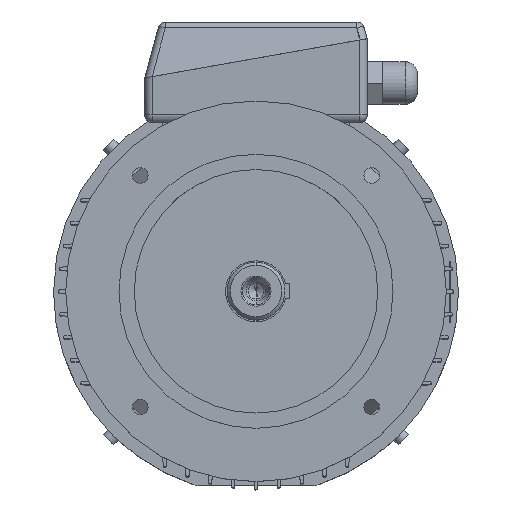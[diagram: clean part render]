
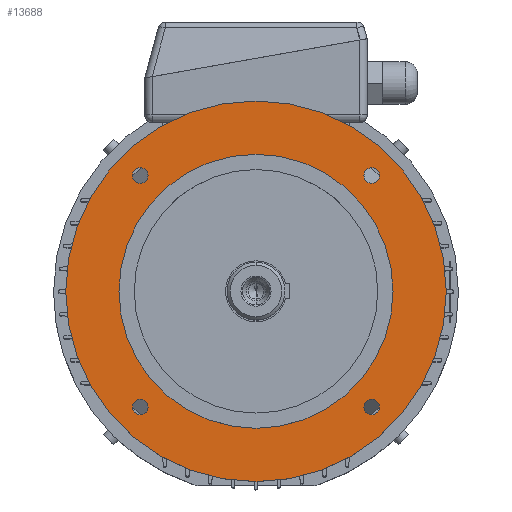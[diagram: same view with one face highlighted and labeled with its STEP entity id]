
A CAD part, top view. The second image highlights one B-rep face of the part: STEP entity #13688.
In plain terms, the highlighted planar face has unit normal (0, 0, 1).
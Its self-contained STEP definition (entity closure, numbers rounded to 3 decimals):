
#16537 = EDGE_LOOP ( 'NONE', ( #15918, #7259 ) ) ;
#436 = EDGE_CURVE ( 'NONE', #17414, #18728, #13785, .T. ) ;
#16823 = ORIENTED_EDGE ( 'NONE', *, *, #3501, .F. ) ;
#16941 = CARTESIAN_POINT ( 'NONE',  ( -81.114, -76.014, 58. ) ) ;
#885 = ORIENTED_EDGE ( 'NONE', *, *, #436, .F. ) ;
#17414 = VERTEX_POINT ( 'NONE', #10523 ) ;
#17438 = EDGE_CURVE ( 'NONE', #3233, #4557, #10531, .T. ) ;
#17683 = EDGE_CURVE ( 'NONE', #18728, #17414, #10718, .T. ) ;
#1490 = EDGE_LOOP ( 'NONE', ( #885, #18963 ) ) ;
#17885 = ORIENTED_EDGE ( 'NONE', *, *, #17438, .F. ) ;
#1780 = ORIENTED_EDGE ( 'NONE', *, *, #13128, .F. ) ;
#1869 = CARTESIAN_POINT ( 'NONE',  ( -70.914, 76.014, 58. ) ) ;
#1986 = CIRCLE ( 'NONE', #1987, 5.1 ) ;
#1987 = AXIS2_PLACEMENT_3D ( 'NONE', #1988, #1993, #1994 ) ;
#1988 = CARTESIAN_POINT ( 'NONE',  ( -76.014, 76.014, 58. ) ) ;
#1993 = DIRECTION ( 'NONE',  ( 0., 0., 1. ) ) ;
#1994 = DIRECTION ( 'NONE',  ( 1., 0., 0. ) ) ;
#18675 = CIRCLE ( 'NONE', #18676, 90. ) ;
#18676 = AXIS2_PLACEMENT_3D ( 'NONE', #18685, #18686, #18687 ) ;
#18684 = EDGE_LOOP ( 'NONE', ( #17885, #16823 ) ) ;
#18685 = CARTESIAN_POINT ( 'NONE',  ( 0., 0., 58. ) ) ;
#18686 = DIRECTION ( 'NONE',  ( 0., 0., 1. ) ) ;
#18687 = DIRECTION ( 'NONE',  ( 1., 0., 0. ) ) ;
#2334 = CARTESIAN_POINT ( 'NONE',  ( -90., 0., 58. ) ) ;
#18728 = VERTEX_POINT ( 'NONE', #11896 ) ;
#2537 = CARTESIAN_POINT ( 'NONE',  ( 90., 0., 58. ) ) ;
#18963 = ORIENTED_EDGE ( 'NONE', *, *, #17683, .F. ) ;
#2750 = CIRCLE ( 'NONE', #2751, 90. ) ;
#2751 = AXIS2_PLACEMENT_3D ( 'NONE', #2752, #2753, #2754 ) ;
#2752 = CARTESIAN_POINT ( 'NONE',  ( 0., 0., 58. ) ) ;
#2753 = DIRECTION ( 'NONE',  ( 0., 0., 1. ) ) ;
#2754 = DIRECTION ( 'NONE',  ( 1., 0., 0. ) ) ;
#3048 = CARTESIAN_POINT ( 'NONE',  ( -81.114, 76.014, 58. ) ) ;
#3233 = VERTEX_POINT ( 'NONE', #15788 ) ;
#3501 = EDGE_CURVE ( 'NONE', #4557, #3233, #16009, .T. ) ;
#4126 = CARTESIAN_POINT ( 'NONE',  ( 125., 0., 58. ) ) ;
#4337 = CIRCLE ( 'NONE', #4347, 5.1 ) ;
#4347 = AXIS2_PLACEMENT_3D ( 'NONE', #4348, #4349, #4350 ) ;
#4348 = CARTESIAN_POINT ( 'NONE',  ( 76.014, 76.014, 58. ) ) ;
#4349 = DIRECTION ( 'NONE',  ( 0., 0., 1. ) ) ;
#4350 = DIRECTION ( 'NONE',  ( 1., 0., 0. ) ) ;
#4356 = CIRCLE ( 'NONE', #4357, 125. ) ;
#4357 = AXIS2_PLACEMENT_3D ( 'NONE', #4358, #4359, #4360 ) ;
#4358 = CARTESIAN_POINT ( 'NONE',  ( 0., 0., 58. ) ) ;
#4359 = DIRECTION ( 'NONE',  ( 0., 0., 1. ) ) ;
#4360 = DIRECTION ( 'NONE',  ( 1., 0., 0. ) ) ;
#4557 = VERTEX_POINT ( 'NONE', #16941 ) ;
#5299 = CARTESIAN_POINT ( 'NONE',  ( -125., 0., 58. ) ) ;
#5373 = ORIENTED_EDGE ( 'NONE', *, *, #14123, .T. ) ;
#5758 = CARTESIAN_POINT ( 'NONE',  ( 81.114, 76.014, 58. ) ) ;
#5822 = CIRCLE ( 'NONE', #5823, 5.1 ) ;
#5823 = AXIS2_PLACEMENT_3D ( 'NONE', #5831, #5832, #5833 ) ;
#5831 = CARTESIAN_POINT ( 'NONE',  ( -76.014, 76.014, 58. ) ) ;
#5832 = DIRECTION ( 'NONE',  ( 0., 0., 1. ) ) ;
#5833 = DIRECTION ( 'NONE',  ( 1., 0., 0. ) ) ;
#5913 = CIRCLE ( 'NONE', #5914, 5.1 ) ;
#5914 = AXIS2_PLACEMENT_3D ( 'NONE', #5915, #5916, #5921 ) ;
#5915 = CARTESIAN_POINT ( 'NONE',  ( 76.014, 76.014, 58. ) ) ;
#5916 = DIRECTION ( 'NONE',  ( 0., 0., 1. ) ) ;
#5921 = DIRECTION ( 'NONE',  ( 1., 0., 0. ) ) ;
#5989 = ORIENTED_EDGE ( 'NONE', *, *, #12565, .T. ) ;
#6581 = EDGE_LOOP ( 'NONE', ( #5989, #5373 ) ) ;
#6867 = EDGE_CURVE ( 'NONE', #10947, #11222, #18675, .T. ) ;
#6881 = CARTESIAN_POINT ( 'NONE',  ( 70.914, 76.014, 58. ) ) ;
#6976 = FACE_BOUND ( 'NONE', #13395, .T. ) ;
#6977 = FACE_BOUND ( 'NONE', #12852, .T. ) ;
#6978 = FACE_BOUND ( 'NONE', #1490, .T. ) ;
#6979 = FACE_BOUND ( 'NONE', #18684, .T. ) ;
#6980 = FACE_BOUND ( 'NONE', #16537, .T. ) ;
#6981 = FACE_OUTER_BOUND ( 'NONE', #6581, .T. ) ;
#6982 = PLANE ( 'NONE',  #6983 ) ;
#6983 = AXIS2_PLACEMENT_3D ( 'NONE', #6984, #6985, #6986 ) ;
#6984 = CARTESIAN_POINT ( 'NONE',  ( 0., 125., 58. ) ) ;
#6985 = DIRECTION ( 'NONE',  ( 0., 0., -1. ) ) ;
#6986 = DIRECTION ( 'NONE',  ( -1., 0., 0. ) ) ;
#7259 = ORIENTED_EDGE ( 'NONE', *, *, #6867, .F. ) ;
#7367 = CIRCLE ( 'NONE', #7368, 125. ) ;
#7368 = AXIS2_PLACEMENT_3D ( 'NONE', #7369, #7370, #7371 ) ;
#7369 = CARTESIAN_POINT ( 'NONE',  ( 0., 0., 58. ) ) ;
#7370 = DIRECTION ( 'NONE',  ( 0., 0., 1. ) ) ;
#7371 = DIRECTION ( 'NONE',  ( 1., 0., 0. ) ) ;
#10233 = VERTEX_POINT ( 'NONE', #1869 ) ;
#10485 = EDGE_CURVE ( 'NONE', #11732, #10233, #1986, .T. ) ;
#10523 = CARTESIAN_POINT ( 'NONE',  ( 81.114, -76.014, 58. ) ) ;
#10531 = CIRCLE ( 'NONE', #10532, 5.1 ) ;
#10532 = AXIS2_PLACEMENT_3D ( 'NONE', #10533, #10534, #10535 ) ;
#10533 = CARTESIAN_POINT ( 'NONE',  ( -76.014, -76.014, 58. ) ) ;
#10534 = DIRECTION ( 'NONE',  ( 0., 0., 1. ) ) ;
#10535 = DIRECTION ( 'NONE',  ( 1., 0., 0. ) ) ;
#10718 = CIRCLE ( 'NONE', #10719, 5.1 ) ;
#10719 = AXIS2_PLACEMENT_3D ( 'NONE', #10726, #10727, #10728 ) ;
#10726 = CARTESIAN_POINT ( 'NONE',  ( 76.014, -76.014, 58. ) ) ;
#10727 = DIRECTION ( 'NONE',  ( 0., 0., 1. ) ) ;
#10728 = DIRECTION ( 'NONE',  ( 1., 0., 0. ) ) ;
#10947 = VERTEX_POINT ( 'NONE', #2334 ) ;
#11222 = VERTEX_POINT ( 'NONE', #2537 ) ;
#11476 = EDGE_CURVE ( 'NONE', #11222, #10947, #2750, .T. ) ;
#11732 = VERTEX_POINT ( 'NONE', #3048 ) ;
#11896 = CARTESIAN_POINT ( 'NONE',  ( 70.914, -76.014, 58. ) ) ;
#12498 = VERTEX_POINT ( 'NONE', #4126 ) ;
#12563 = EDGE_CURVE ( 'NONE', #13064, #13573, #4337, .T. ) ;
#12565 = EDGE_CURVE ( 'NONE', #12498, #12911, #4356, .T. ) ;
#12680 = ORIENTED_EDGE ( 'NONE', *, *, #12563, .F. ) ;
#12852 = EDGE_LOOP ( 'NONE', ( #12680, #1780 ) ) ;
#12911 = VERTEX_POINT ( 'NONE', #5299 ) ;
#12929 = ORIENTED_EDGE ( 'NONE', *, *, #10485, .F. ) ;
#13064 = VERTEX_POINT ( 'NONE', #5758 ) ;
#13083 = EDGE_CURVE ( 'NONE', #10233, #11732, #5822, .T. ) ;
#13128 = EDGE_CURVE ( 'NONE', #13573, #13064, #5913, .T. ) ;
#13188 = ORIENTED_EDGE ( 'NONE', *, *, #13083, .F. ) ;
#13395 = EDGE_LOOP ( 'NONE', ( #13188, #12929 ) ) ;
#13573 = VERTEX_POINT ( 'NONE', #6881 ) ;
#13688 = ADVANCED_FACE ( 'NONE', ( #6976, #6977, #6978, #6979, #6980, #6981 ), #6982, .F. ) ;
#13785 = CIRCLE ( 'NONE', #13786, 5.1 ) ;
#13786 = AXIS2_PLACEMENT_3D ( 'NONE', #13791, #13792, #13793 ) ;
#13791 = CARTESIAN_POINT ( 'NONE',  ( 76.014, -76.014, 58. ) ) ;
#13792 = DIRECTION ( 'NONE',  ( 0., 0., 1. ) ) ;
#13793 = DIRECTION ( 'NONE',  ( 1., 0., 0. ) ) ;
#14123 = EDGE_CURVE ( 'NONE', #12911, #12498, #7367, .T. ) ;
#15788 = CARTESIAN_POINT ( 'NONE',  ( -70.914, -76.014, 58. ) ) ;
#15918 = ORIENTED_EDGE ( 'NONE', *, *, #11476, .F. ) ;
#16009 = CIRCLE ( 'NONE', #16010, 5.1 ) ;
#16010 = AXIS2_PLACEMENT_3D ( 'NONE', #16011, #16012, #16013 ) ;
#16011 = CARTESIAN_POINT ( 'NONE',  ( -76.014, -76.014, 58. ) ) ;
#16012 = DIRECTION ( 'NONE',  ( 0., 0., 1. ) ) ;
#16013 = DIRECTION ( 'NONE',  ( 1., 0., 0. ) ) ;
